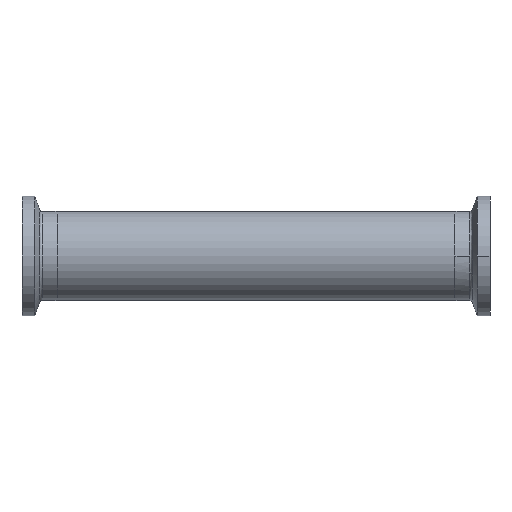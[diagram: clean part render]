
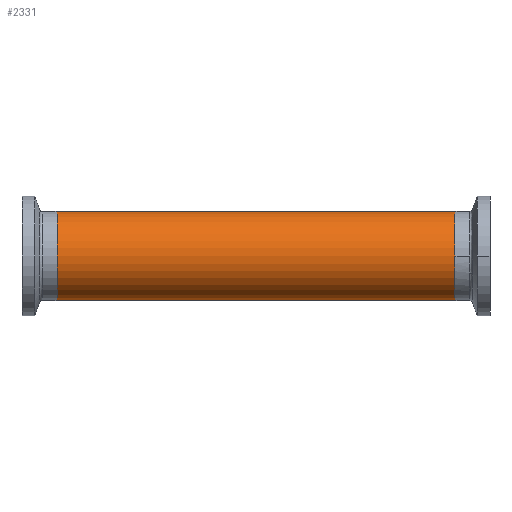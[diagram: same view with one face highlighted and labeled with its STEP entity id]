
A CAD part, front view. The second image highlights one B-rep face of the part: STEP entity #2331.
In plain terms, the highlighted cylindrical face has radius 12.7 mm (diameter 25.4 mm), a partial arc.
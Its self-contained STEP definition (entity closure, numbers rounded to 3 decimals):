
#36 = ORIENTED_EDGE ( 'NONE', *, *, #1704, .T. ) ;
#99 = CARTESIAN_POINT ( 'NONE',  ( -56.7, 0., 0. ) ) ;
#200 = CARTESIAN_POINT ( 'NONE',  ( 56.7, 0., -12.7 ) ) ;
#293 = DIRECTION ( 'NONE',  ( 0., 0., 1. ) ) ;
#294 = CARTESIAN_POINT ( 'NONE',  ( 92.621, 0., 12.7 ) ) ;
#327 = DIRECTION ( 'NONE',  ( 0., 0., 1. ) ) ;
#467 = VERTEX_POINT ( 'NONE', #1598 ) ;
#471 = CYLINDRICAL_SURFACE ( 'NONE', #478, 12.7 ) ;
#478 = AXIS2_PLACEMENT_3D ( 'NONE', #787, #1231, #1454 ) ;
#521 = EDGE_LOOP ( 'NONE', ( #1281, #2213, #36, #1959 ) ) ;
#552 = VECTOR ( 'NONE', #1869, 1000. ) ;
#659 = EDGE_CURVE ( 'NONE', #1822, #467, #2711, .T. ) ;
#698 = VECTOR ( 'NONE', #1595, 1000. ) ;
#767 = LINE ( 'NONE', #294, #698 ) ;
#769 = EDGE_CURVE ( 'NONE', #1822, #975, #1116, .T. ) ;
#787 = CARTESIAN_POINT ( 'NONE',  ( 92.621, 0., 0. ) ) ;
#975 = VERTEX_POINT ( 'NONE', #2254 ) ;
#1099 = FACE_OUTER_BOUND ( 'NONE', #521, .T. ) ;
#1116 = LINE ( 'NONE', #1385, #552 ) ;
#1231 = DIRECTION ( 'NONE',  ( -1., 0., 0. ) ) ;
#1281 = ORIENTED_EDGE ( 'NONE', *, *, #769, .F. ) ;
#1385 = CARTESIAN_POINT ( 'NONE',  ( 92.621, 0., -12.7 ) ) ;
#1454 = DIRECTION ( 'NONE',  ( 0., 0., 1. ) ) ;
#1594 = DIRECTION ( 'NONE',  ( 1., 0., 0. ) ) ;
#1595 = DIRECTION ( 'NONE',  ( -1., 0., 0. ) ) ;
#1598 = CARTESIAN_POINT ( 'NONE',  ( 56.7, 0., 12.7 ) ) ;
#1704 = EDGE_CURVE ( 'NONE', #467, #2135, #767, .T. ) ;
#1742 = AXIS2_PLACEMENT_3D ( 'NONE', #99, #1594, #293 ) ;
#1822 = VERTEX_POINT ( 'NONE', #200 ) ;
#1869 = DIRECTION ( 'NONE',  ( -1., 0., 0. ) ) ;
#1959 = ORIENTED_EDGE ( 'NONE', *, *, #2143, .T. ) ;
#2026 = CARTESIAN_POINT ( 'NONE',  ( -56.7, 0., 12.7 ) ) ;
#2069 = DIRECTION ( 'NONE',  ( -1., 0., 0. ) ) ;
#2135 = VERTEX_POINT ( 'NONE', #2026 ) ;
#2143 = EDGE_CURVE ( 'NONE', #2135, #975, #2560, .T. ) ;
#2213 = ORIENTED_EDGE ( 'NONE', *, *, #659, .T. ) ;
#2254 = CARTESIAN_POINT ( 'NONE',  ( -56.7, 0., -12.7 ) ) ;
#2307 = CARTESIAN_POINT ( 'NONE',  ( 56.7, 0., 0. ) ) ;
#2331 = ADVANCED_FACE ( 'NONE', ( #1099 ), #471, .T. ) ;
#2388 = AXIS2_PLACEMENT_3D ( 'NONE', #2307, #2069, #327 ) ;
#2560 = CIRCLE ( 'NONE', #1742, 12.7 ) ;
#2711 = CIRCLE ( 'NONE', #2388, 12.7 ) ;
